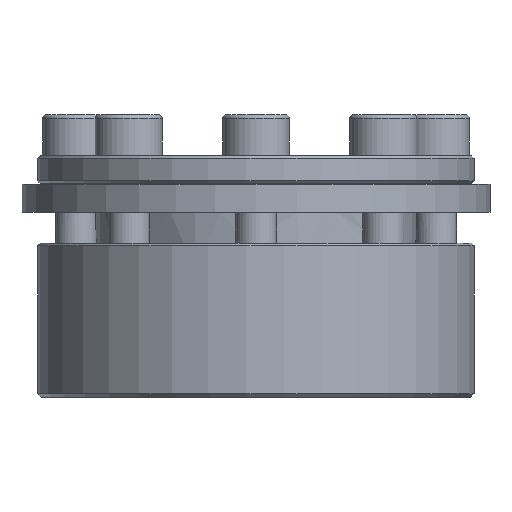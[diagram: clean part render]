
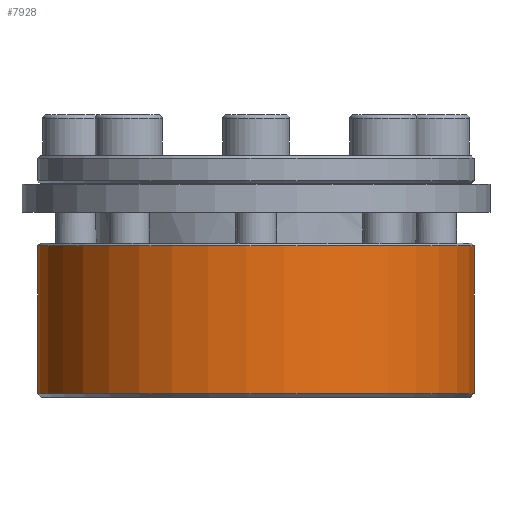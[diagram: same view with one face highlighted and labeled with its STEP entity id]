
A CAD part, front view. The second image highlights one B-rep face of the part: STEP entity #7928.
In plain terms, the highlighted cylindrical face has radius 42.5 mm (diameter 85 mm), a partial arc.
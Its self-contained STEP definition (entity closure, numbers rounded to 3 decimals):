
#2906=CARTESIAN_POINT('',(0.,0.,-35.25));
#2907=DIRECTION('',(0.,0.,1.));
#2908=DIRECTION('',(0.361,0.933,0.));
#2909=AXIS2_PLACEMENT_3D('',#2906,#2907,#2908);
#2924=DIRECTION('',(0.,0.,-1.));
#2925=VECTOR('',#2924,28.75);
#2926=CARTESIAN_POINT('',(15.336,39.637,-6.5));
#2927=LINE('',#2926,#2925);
#2931=DIRECTION('',(0.,0.,-1.));
#2932=VECTOR('',#2931,28.75);
#2933=CARTESIAN_POINT('',(17.183,38.871,-6.5));
#2934=LINE('',#2933,#2932);
#2938=CARTESIAN_POINT('',(0.,0.,
-6.5));
#2939=DIRECTION('',(0.,0.,-1.));
#2940=DIRECTION('',(0.404,0.915,0.));
#2941=AXIS2_PLACEMENT_3D('',#2938,#2939,#2940);
#6241=CARTESIAN_POINT('',(17.183,38.871,-6.5));
#6242=CARTESIAN_POINT('',(17.183,38.871,-35.25));
#6243=VERTEX_POINT('',#6241);
#6244=VERTEX_POINT('',#6242);
#6267=CARTESIAN_POINT('',(15.336,39.637,-6.5));
#6268=CARTESIAN_POINT('',(15.336,39.637,-35.25));
#6269=VERTEX_POINT('',#6267);
#6270=VERTEX_POINT('',#6268);
#7916=CARTESIAN_POINT('',(0.,0.,-4.5));
#7917=DIRECTION('',(0.,0.,-1.));
#7918=DIRECTION('',(0.,-1.,0.));
#7919=AXIS2_PLACEMENT_3D('',#7916,#7917,#7918);
#7920=CYLINDRICAL_SURFACE('',#7919,42.5);
#7921=ORIENTED_EDGE('',*,*,#7898,.F.);
#7922=ORIENTED_EDGE('',*,*,#6611,.F.);
#7924=ORIENTED_EDGE('',*,*,#7923,.F.);
#7925=ORIENTED_EDGE('',*,*,#6756,.T.);
#7926=EDGE_LOOP('',(#7921,#7922,#7924,#7925));
#7927=FACE_OUTER_BOUND('',#7926,.F.);
#7928=ADVANCED_FACE('',(#7927),#7920,.T.);
#2910=CIRCLE('',#2909,42.5);
#2942=CIRCLE('',#2941,42.5);
#6611=EDGE_CURVE('',#6269,#6270,#2927,.T.);
#6756=EDGE_CURVE('',#6243,#6244,#2934,.T.);
#7898=EDGE_CURVE('',#6270,#6244,#2910,.T.);
#7923=EDGE_CURVE('',#6243,#6269,#2942,.T.);
